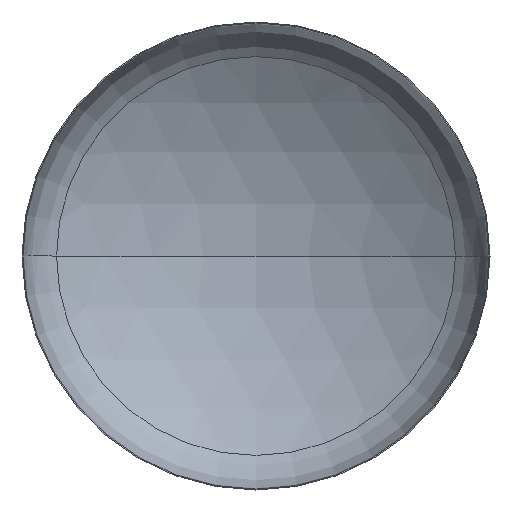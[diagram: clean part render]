
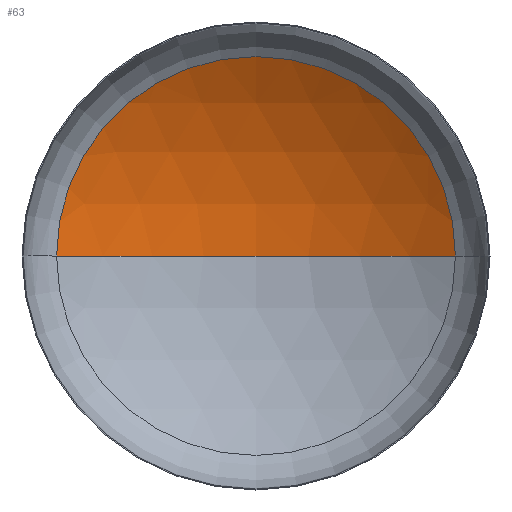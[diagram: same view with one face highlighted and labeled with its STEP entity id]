
A CAD part, front view. The second image highlights one B-rep face of the part: STEP entity #63.
In plain terms, the highlighted spherical face has radius 6400 mm.
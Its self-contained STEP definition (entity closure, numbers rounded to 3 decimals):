
#9 = ORIENTED_EDGE ( 'NONE', *, *, #157, .T. ) ;
#23 = ORIENTED_EDGE ( 'NONE', *, *, #159, .T. ) ;
#36 = VERTEX_POINT ( 'NONE', #277 ) ;
#61 = ORIENTED_EDGE ( 'NONE', *, *, #162, .F. ) ;
#63 = ADVANCED_FACE ( 'NONE', ( #402 ), #122, .F. ) ;
#94 = EDGE_LOOP ( 'NONE', ( #61, #23, #9 ) ) ;
#96 = AXIS2_PLACEMENT_3D ( 'NONE', #198, #201, #161 ) ;
#103 = AXIS2_PLACEMENT_3D ( 'NONE', #226, #214, #212 ) ;
#105 = AXIS2_PLACEMENT_3D ( 'NONE', #304, #303, #296 ) ;
#111 = VERTEX_POINT ( 'NONE', #228 ) ;
#122 = SPHERICAL_SURFACE ( 'NONE', #133, 6400. ) ;
#128 = CIRCLE ( 'NONE', #103, 6400. ) ;
#133 = AXIS2_PLACEMENT_3D ( 'NONE', #247, #282, #245 ) ;
#157 = EDGE_CURVE ( 'NONE', #36, #111, #215, .T. ) ;
#159 = EDGE_CURVE ( 'NONE', #353, #36, #128, .T. ) ;
#161 = DIRECTION ( 'NONE',  ( 1., 0., 0. ) ) ;
#162 = EDGE_CURVE ( 'NONE', #353, #111, #340, .T. ) ;
#198 = CARTESIAN_POINT ( 'NONE',  ( 0., -4320.43, 0. ) ) ;
#201 = DIRECTION ( 'NONE',  ( 0., 0., 1. ) ) ;
#212 = DIRECTION ( 'NONE',  ( -1., 0., 0. ) ) ;
#214 = DIRECTION ( 'NONE',  ( 0., 0., -1. ) ) ;
#215 = CIRCLE ( 'NONE', #105, 3409.207 ) ;
#226 = CARTESIAN_POINT ( 'NONE',  ( 0., -4320.43, 0. ) ) ;
#228 = CARTESIAN_POINT ( 'NONE',  ( -3409.207, 1095.963, 0. ) ) ;
#245 = DIRECTION ( 'NONE',  ( -1., 0., 0. ) ) ;
#247 = CARTESIAN_POINT ( 'NONE',  ( 0., -4320.43, 0. ) ) ;
#277 = CARTESIAN_POINT ( 'NONE',  ( 3409.207, 1095.963, 0. ) ) ;
#282 = DIRECTION ( 'NONE',  ( 0., 0., -1. ) ) ;
#296 = DIRECTION ( 'NONE',  ( 1., 0., 0. ) ) ;
#303 = DIRECTION ( 'NONE',  ( 0., -1., 0. ) ) ;
#304 = CARTESIAN_POINT ( 'NONE',  ( 0., 1095.963, 0. ) ) ;
#340 = CIRCLE ( 'NONE', #96, 6400. ) ;
#353 = VERTEX_POINT ( 'NONE', #358 ) ;
#358 = CARTESIAN_POINT ( 'NONE',  ( 0., 2079.57, 0. ) ) ;
#402 = FACE_OUTER_BOUND ( 'NONE', #94, .T. ) ;
